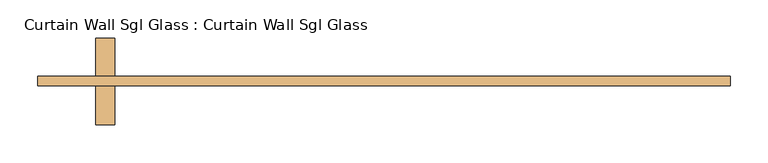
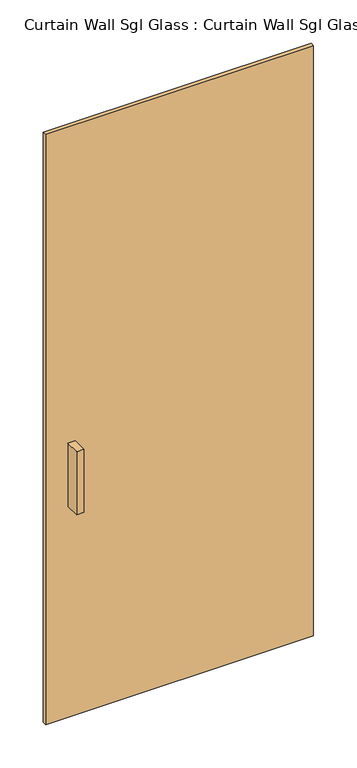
"""IFC4 building model written with IfcOpenShell, lengths in millimetres: door geometry, Curtain Wall Sgl Glass : Curtain Wall Sgl Glass."""

from ifc_helpers import new_model, si_unit, frame, origin, origin_with_axes, place, context, project, spatial, polyline, outline, extrude, source, transform, mapped, element, save


def curtain_wall_sgl_glass_curtain_wall_sgl_glass_ab2568d1(model_context):
    return source(origin(), model_context, "Body", "SweptSolid", [
        extrude(outline(polyline([(-355.6, -12.7), (-381.0, -12.7), (-381.0, 38.1), (-355.6, 38.1), (-355.6, -12.7)])), frame((0.0, 0.0, 762.0), z_axis=(0.0, 0.0, 1.0), x_axis=(1.0, 0.0, 0.0)), (0.0, 0.0, 1.0), 228.6),
        extrude(outline(polyline([(-381.0, 101.6), (-355.6, 101.6), (-355.6, 50.8), (-381.0, 50.8), (-381.0, 101.6)])), frame((0.0, 0.0, 762.0), z_axis=(0.0, 0.0, 1.0), x_axis=(1.0, 0.0, 0.0)), (0.0, 0.0, 1.0), 228.6),
        extrude(outline(polyline([(457.2, 50.8), (457.2, 38.1), (-457.2, 38.1), (-457.2, 50.8), (457.2, 50.8)])), origin_with_axes(), (0.0, 0.0, 1.0), 2133.6),
    ])


if __name__ == "__main__":
    model = new_model("IFC4")
    model_context = context("Model", 3, world=origin())
    ifc_project = project(units=[si_unit("LENGTHUNIT", "METRE", prefix="MILLI")], contexts=[model_context])
    site = spatial("IfcSite", under=ifc_project)
    building = spatial("IfcBuilding", under=site)
    placement = place(None, origin())
    curtain_wall_sgl_glass_curtain_wall_sgl_glass_shape = curtain_wall_sgl_glass_curtain_wall_sgl_glass_ab2568d1(model_context)
    element("IfcDoor", 1, ObjectType="Curtain Wall Sgl Glass : Curtain Wall Sgl Glass", at=placement, inside=building, context=model_context, shape_type="MappedRepresentation", body=[
        mapped(curtain_wall_sgl_glass_curtain_wall_sgl_glass_shape, transform((0.0, 0.0, 0.0), x_axis=(1.0, 0.0, 0.0), y_axis=(0.0, 1.0, 0.0), z_axis=(0.0, 0.0, 1.0))),
    ])
    save(model, "model.ifc")
